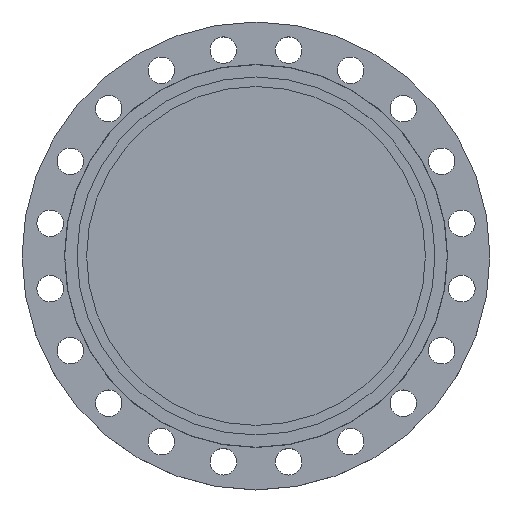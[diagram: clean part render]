
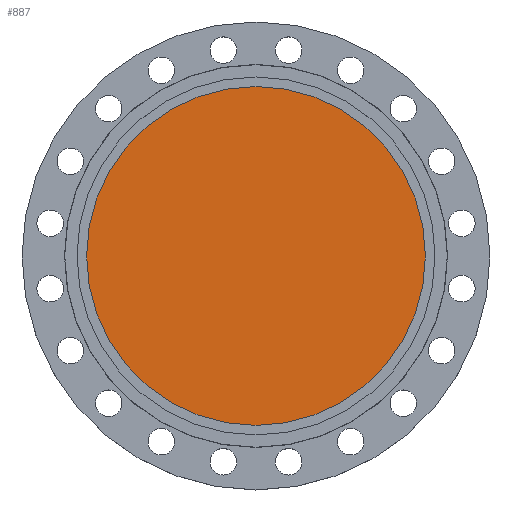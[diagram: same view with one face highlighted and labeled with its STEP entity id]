
A CAD part, top view. The second image highlights one B-rep face of the part: STEP entity #887.
In plain terms, the highlighted planar face has unit normal (0, 0, 1).
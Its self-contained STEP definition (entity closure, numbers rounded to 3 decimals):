
#118 = DIRECTION ( 'NONE',  ( -1., 0., 0. ) ) ;
#121 = DIRECTION ( 'NONE',  ( 0., 0., -1. ) ) ;
#122 = CARTESIAN_POINT ( 'NONE',  ( 0., 0., 0. ) ) ;
#329 = DIRECTION ( 'NONE',  ( -1., 0., 0. ) ) ;
#330 = DIRECTION ( 'NONE',  ( 0., 0., -1. ) ) ;
#331 = CARTESIAN_POINT ( 'NONE',  ( 0., 0., 0. ) ) ;
#404 = EDGE_CURVE ( 'NONE', #1721, #886, #900, .T. ) ;
#597 = AXIS2_PLACEMENT_3D ( 'NONE', #331, #330, #329 ) ;
#617 = CIRCLE ( 'NONE', #649, 248. ) ;
#645 = EDGE_LOOP ( 'NONE', ( #994, #1014 ) ) ;
#649 = AXIS2_PLACEMENT_3D ( 'NONE', #122, #121, #118 ) ;
#681 = EDGE_CURVE ( 'NONE', #886, #1721, #617, .T. ) ;
#886 = VERTEX_POINT ( 'NONE', #1378 ) ;
#887 = ADVANCED_FACE ( 'NONE', ( #1351 ), #1339, .T. ) ;
#900 = CIRCLE ( 'NONE', #597, 248. ) ;
#994 = ORIENTED_EDGE ( 'NONE', *, *, #404, .F. ) ;
#1011 = CARTESIAN_POINT ( 'NONE',  ( -248., 0., 0. ) ) ;
#1014 = ORIENTED_EDGE ( 'NONE', *, *, #681, .F. ) ;
#1124 = DIRECTION ( 'NONE',  ( 1., 0., 0. ) ) ;
#1151 = AXIS2_PLACEMENT_3D ( 'NONE', #1275, #1152, #1124 ) ;
#1152 = DIRECTION ( 'NONE',  ( 0., 0., 1. ) ) ;
#1275 = CARTESIAN_POINT ( 'NONE',  ( 0., 0., 0. ) ) ;
#1339 = PLANE ( 'NONE',  #1151 ) ;
#1351 = FACE_OUTER_BOUND ( 'NONE', #645, .T. ) ;
#1378 = CARTESIAN_POINT ( 'NONE',  ( 248., 0., 0. ) ) ;
#1721 = VERTEX_POINT ( 'NONE', #1011 ) ;
